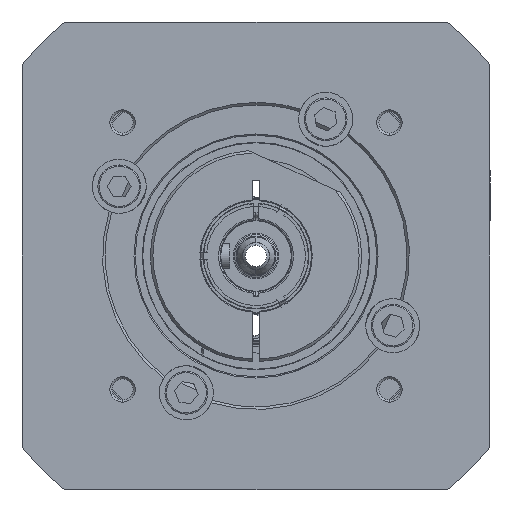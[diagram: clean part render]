
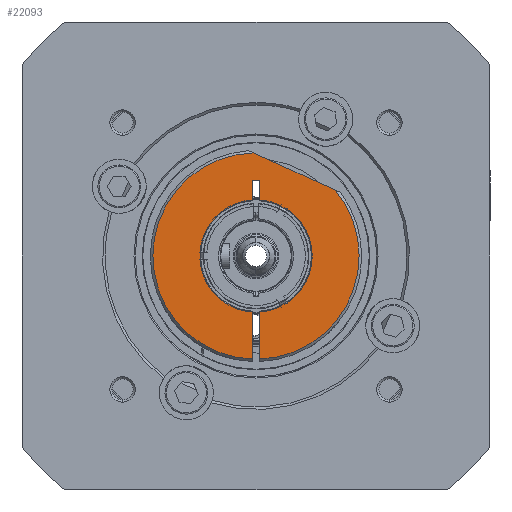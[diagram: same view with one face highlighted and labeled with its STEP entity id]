
A CAD part, left-side view. The second image highlights one B-rep face of the part: STEP entity #22093.
In plain terms, the highlighted planar face has unit normal (-1, 0, 0).
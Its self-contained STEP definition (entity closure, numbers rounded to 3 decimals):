
#1610 = CIRCLE ( 'NONE', #59143, 11.1 ) ;
#1651 = CARTESIAN_POINT ( 'NONE',  ( -103.32, 0., 0. ) ) ;
#1732 = ORIENTED_EDGE ( 'NONE', *, *, #2444, .T. ) ;
#1872 = ORIENTED_EDGE ( 'NONE', *, *, #27525, .T. ) ;
#2239 = CARTESIAN_POINT ( 'NONE',  ( -103.32, 0.75, -11.075 ) ) ;
#2444 = EDGE_CURVE ( 'NONE', #15481, #54826, #23431, .T. ) ;
#3516 = ORIENTED_EDGE ( 'NONE', *, *, #21275, .T. ) ;
#4320 = DIRECTION ( 'NONE',  ( 0., 0., -1. ) ) ;
#4839 = VERTEX_POINT ( 'NONE', #36668 ) ;
#5371 = VERTEX_POINT ( 'NONE', #26585 ) ;
#6031 = DIRECTION ( 'NONE',  ( 0., 0., -1. ) ) ;
#6911 = VERTEX_POINT ( 'NONE', #16067 ) ;
#7435 = AXIS2_PLACEMENT_3D ( 'NONE', #1651, #58804, #44822 ) ;
#8287 = AXIS2_PLACEMENT_3D ( 'NONE', #59621, #13034, #41300 ) ;
#11274 = VERTEX_POINT ( 'NONE', #29743 ) ;
#13034 = DIRECTION ( 'NONE',  ( -1., 0., 0. ) ) ;
#13337 = FACE_OUTER_BOUND ( 'NONE', #46867, .T. ) ;
#13414 = DIRECTION ( 'NONE',  ( 0., 0.91, 0.414 ) ) ;
#14326 = EDGE_CURVE ( 'NONE', #5371, #55251, #28866, .T. ) ;
#15481 = VERTEX_POINT ( 'NONE', #17687 ) ;
#15736 = CARTESIAN_POINT ( 'NONE',  ( -103.32, -0.75, 15. ) ) ;
#16067 = CARTESIAN_POINT ( 'NONE',  ( -103.32, 0.487, 20.494 ) ) ;
#16499 = EDGE_CURVE ( 'NONE', #11274, #55707, #34175, .T. ) ;
#17296 = CIRCLE ( 'NONE', #8287, 20.5 ) ;
#17546 = EDGE_CURVE ( 'NONE', #55251, #50762, #1610, .T. ) ;
#17687 = CARTESIAN_POINT ( 'NONE',  ( -103.32, 0.75, 15. ) ) ;
#18378 = VECTOR ( 'NONE', #13414, 1000. ) ;
#18549 = LINE ( 'NONE', #22890, #49957 ) ;
#18739 = AXIS2_PLACEMENT_3D ( 'NONE', #52734, #48677, #30029 ) ;
#21275 = EDGE_CURVE ( 'NONE', #30274, #4839, #51426, .T. ) ;
#22093 = ADVANCED_FACE ( 'NONE', ( #13337 ), #33443, .F. ) ;
#22890 = CARTESIAN_POINT ( 'NONE',  ( -103.32, -0.75, 15. ) ) ;
#23431 = LINE ( 'NONE', #37978, #40094 ) ;
#23575 = CARTESIAN_POINT ( 'NONE',  ( -103.32, 0., 0. ) ) ;
#24092 = VECTOR ( 'NONE', #47282, 1000. ) ;
#25086 = CARTESIAN_POINT ( 'NONE',  ( -103.32, -0.75, -11.075 ) ) ;
#26585 = CARTESIAN_POINT ( 'NONE',  ( -103.32, 0.75, -20.486 ) ) ;
#26741 = LINE ( 'NONE', #60926, #18378 ) ;
#27525 = EDGE_CURVE ( 'NONE', #55707, #30274, #46242, .T. ) ;
#28418 = DIRECTION ( 'NONE',  ( 0., 0., -1. ) ) ;
#28866 = LINE ( 'NONE', #32599, #61288 ) ;
#29272 = DIRECTION ( 'NONE',  ( 0., -1., 0. ) ) ;
#29743 = CARTESIAN_POINT ( 'NONE',  ( -103.32, -0.75, 11.075 ) ) ;
#30029 = DIRECTION ( 'NONE',  ( 0., 0., -1. ) ) ;
#30274 = VERTEX_POINT ( 'NONE', #51259 ) ;
#31895 = ORIENTED_EDGE ( 'NONE', *, *, #17546, .T. ) ;
#32599 = CARTESIAN_POINT ( 'NONE',  ( -103.32, 0.75, 15. ) ) ;
#32856 = DIRECTION ( 'NONE',  ( 0., 0., -1. ) ) ;
#33262 = LINE ( 'NONE', #47875, #24092 ) ;
#33443 = PLANE ( 'NONE',  #37599 ) ;
#34175 = CIRCLE ( 'NONE', #7435, 11.1 ) ;
#36668 = CARTESIAN_POINT ( 'NONE',  ( -103.32, -15.778, 13.089 ) ) ;
#37570 = DIRECTION ( 'NONE',  ( 0., 0., 1. ) ) ;
#37599 = AXIS2_PLACEMENT_3D ( 'NONE', #23575, #52445, #4320 ) ;
#37978 = CARTESIAN_POINT ( 'NONE',  ( -103.32, 0.75, 15. ) ) ;
#38618 = ORIENTED_EDGE ( 'NONE', *, *, #48156, .T. ) ;
#38936 = DIRECTION ( 'NONE',  ( 1., 0., 0. ) ) ;
#40094 = VECTOR ( 'NONE', #29272, 1000. ) ;
#41300 = DIRECTION ( 'NONE',  ( 0., 0., -1. ) ) ;
#42205 = CARTESIAN_POINT ( 'NONE',  ( -103.32, -0.75, 15. ) ) ;
#44662 = ORIENTED_EDGE ( 'NONE', *, *, #47047, .T. ) ;
#44822 = DIRECTION ( 'NONE',  ( 0., 0., -1. ) ) ;
#45262 = ORIENTED_EDGE ( 'NONE', *, *, #16499, .T. ) ;
#46242 = LINE ( 'NONE', #42205, #50752 ) ;
#46867 = EDGE_LOOP ( 'NONE', ( #3516, #57078, #38618, #48467, #31895, #58232, #1732, #44662, #45262, #1872 ) ) ;
#46873 = CARTESIAN_POINT ( 'NONE',  ( -103.32, 0.75, 11.075 ) ) ;
#47047 = EDGE_CURVE ( 'NONE', #54826, #11274, #18549, .T. ) ;
#47282 = DIRECTION ( 'NONE',  ( 0., 0., 1. ) ) ;
#47875 = CARTESIAN_POINT ( 'NONE',  ( -103.32, 0.75, 15. ) ) ;
#47972 = EDGE_CURVE ( 'NONE', #4839, #6911, #26741, .T. ) ;
#48156 = EDGE_CURVE ( 'NONE', #6911, #5371, #17296, .T. ) ;
#48467 = ORIENTED_EDGE ( 'NONE', *, *, #14326, .T. ) ;
#48677 = DIRECTION ( 'NONE',  ( -1., 0., 0. ) ) ;
#49957 = VECTOR ( 'NONE', #28418, 1000. ) ;
#50752 = VECTOR ( 'NONE', #32856, 1000. ) ;
#50762 = VERTEX_POINT ( 'NONE', #46873 ) ;
#51259 = CARTESIAN_POINT ( 'NONE',  ( -103.32, -0.75, -20.486 ) ) ;
#51426 = CIRCLE ( 'NONE', #18739, 20.5 ) ;
#51959 = EDGE_CURVE ( 'NONE', #50762, #15481, #33262, .T. ) ;
#52445 = DIRECTION ( 'NONE',  ( 1., 0., 0. ) ) ;
#52734 = CARTESIAN_POINT ( 'NONE',  ( -103.32, 0., 0. ) ) ;
#54826 = VERTEX_POINT ( 'NONE', #15736 ) ;
#55251 = VERTEX_POINT ( 'NONE', #2239 ) ;
#55707 = VERTEX_POINT ( 'NONE', #25086 ) ;
#57078 = ORIENTED_EDGE ( 'NONE', *, *, #47972, .T. ) ;
#57872 = CARTESIAN_POINT ( 'NONE',  ( -103.32, 0., 0. ) ) ;
#58232 = ORIENTED_EDGE ( 'NONE', *, *, #51959, .T. ) ;
#58804 = DIRECTION ( 'NONE',  ( 1., 0., 0. ) ) ;
#59143 = AXIS2_PLACEMENT_3D ( 'NONE', #57872, #38936, #6031 ) ;
#59621 = CARTESIAN_POINT ( 'NONE',  ( -103.32, 0., 0. ) ) ;
#60926 = CARTESIAN_POINT ( 'NONE',  ( -103.32, 1.483, 20.948 ) ) ;
#61288 = VECTOR ( 'NONE', #37570, 1000. ) ;
